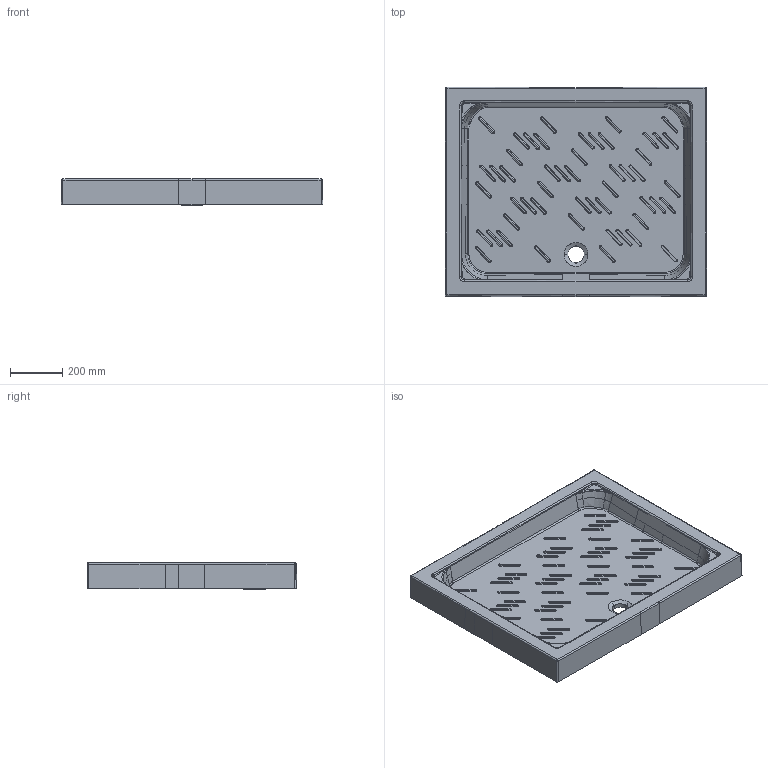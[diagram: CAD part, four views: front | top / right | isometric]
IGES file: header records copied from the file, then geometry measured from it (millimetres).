
Start section: START RECORD GO HERE.
Global section: file name: 1019_3D.igs; native system: DASSAULT SYSTEMES CATIA V5 R19 - www.3ds.com; preprocessor: CATIA Version 5 Release 19 SP 5 ; author: gioge; organization: LAPTOP-G94B6G74; date: 20201022.152709; units: millimetre
Bounding box: 1005.24 x 805.14 x 100.45 mm (x, y, z)
Surface area: 1328630.6 mm2 (no closed solid volume)
Topology: 0 solids, 0 shells, 645 faces, 3328 edges, 3316 vertices
Faces by surface type: revolution 428, bspline 140, plane 71, extrusion 6
